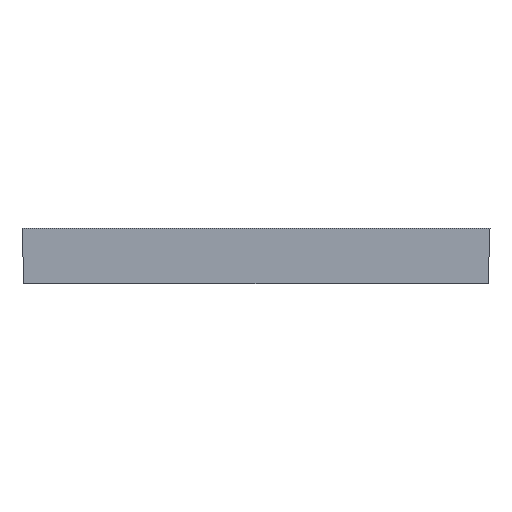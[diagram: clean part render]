
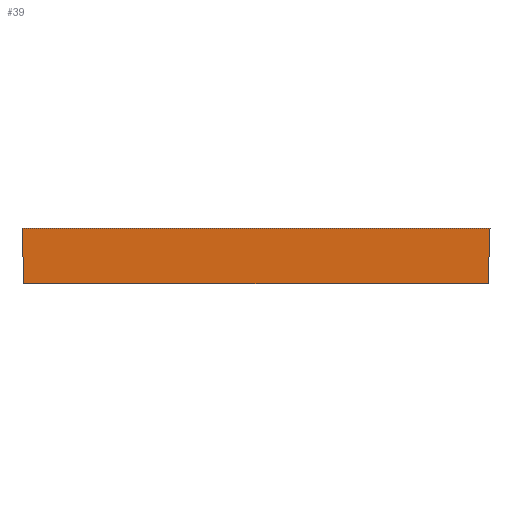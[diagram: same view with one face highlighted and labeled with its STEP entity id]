
A CAD part, front view. The second image highlights one B-rep face of the part: STEP entity #39.
In plain terms, the highlighted free-form (B-spline) face has degree [1, 1] with [2, 2] control points.
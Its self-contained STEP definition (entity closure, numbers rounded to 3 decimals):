
#39 = ADVANCED_FACE('',(#40),#54,.F.);
#40 = FACE_BOUND('',#41,.F.);
#41 = EDGE_LOOP('',(#42,#76,#103,#131));
#42 = ORIENTED_EDGE('',*,*,#43,.T.);
#43 = EDGE_CURVE('',#44,#46,#48,.T.);
#44 = VERTEX_POINT('',#45);
#45 = CARTESIAN_POINT('',(319.4,194.1,13.8));
#46 = VERTEX_POINT('',#47);
#47 = CARTESIAN_POINT('',(223.9,194.1,13.8));
#48 = SURFACE_CURVE('',#49,(#53,#64),.PCURVE_S1.);
#49 = LINE('',#50,#51);
#50 = CARTESIAN_POINT('',(319.4,194.1,13.8));
#51 = VECTOR('',#52,1.);
#52 = DIRECTION('',(-1.,0.,0.));
#53 = PCURVE('',#54,#59);
#54 = B_SPLINE_SURFACE_WITH_KNOTS('',1,1,(
    (#55,#56)
    ,(#57,#58)),.UNSPECIFIED.,.F.,.F.,.F.,(2,2),(2,2),(-0.402,
    95.902),(0.,1.),.PIECEWISE_BEZIER_KNOTS.);
#55 = CARTESIAN_POINT('',(319.4,194.1,13.8));
#56 = CARTESIAN_POINT('',(319.802,193.698,25.3));
#57 = CARTESIAN_POINT('',(223.9,194.1,13.8));
#58 = CARTESIAN_POINT('',(223.498,193.698,25.3));
#59 = DEFINITIONAL_REPRESENTATION('',(#60),#63);
#60 = B_SPLINE_CURVE_WITH_KNOTS('',1,(#61,#62),.UNSPECIFIED.,.F.,.F.,(2,
    2),(0.,95.5),.PIECEWISE_BEZIER_KNOTS.);
#61 = CARTESIAN_POINT('',(-0.402,0.));
#62 = CARTESIAN_POINT('',(95.902,0.));
#63 = ( GEOMETRIC_REPRESENTATION_CONTEXT(2) 
PARAMETRIC_REPRESENTATION_CONTEXT() REPRESENTATION_CONTEXT('2D SPACE',''
  ) );
#64 = PCURVE('',#65,#70);
#65 = PLANE('',#66);
#66 = AXIS2_PLACEMENT_3D('',#67,#68,#69);
#67 = CARTESIAN_POINT('',(319.4,194.1,13.8));
#68 = DIRECTION('',(0.,0.,1.));
#69 = DIRECTION('',(-0.977,0.213,0.));
#70 = DEFINITIONAL_REPRESENTATION('',(#71),#75);
#71 = LINE('',#72,#73);
#72 = CARTESIAN_POINT('',(0.,0.));
#73 = VECTOR('',#74,1.);
#74 = DIRECTION('',(0.977,0.213));
#75 = ( GEOMETRIC_REPRESENTATION_CONTEXT(2) 
PARAMETRIC_REPRESENTATION_CONTEXT() REPRESENTATION_CONTEXT('2D SPACE',''
  ) );
#76 = ORIENTED_EDGE('',*,*,#77,.T.);
#77 = EDGE_CURVE('',#46,#78,#80,.T.);
#78 = VERTEX_POINT('',#79);
#79 = CARTESIAN_POINT('',(223.498,193.698,25.3));
#80 = SURFACE_CURVE('',#81,(#84,#91),.PCURVE_S1.);
#81 = B_SPLINE_CURVE_WITH_KNOTS('',1,(#82,#83),.UNSPECIFIED.,.F.,.F.,(2,
    2),(0.,1.),.PIECEWISE_BEZIER_KNOTS.);
#82 = CARTESIAN_POINT('',(223.9,194.1,13.8));
#83 = CARTESIAN_POINT('',(223.498,193.698,25.3));
#84 = PCURVE('',#54,#85);
#85 = DEFINITIONAL_REPRESENTATION('',(#86),#90);
#86 = LINE('',#87,#88);
#87 = CARTESIAN_POINT('',(95.902,0.));
#88 = VECTOR('',#89,1.);
#89 = DIRECTION('',(0.,1.));
#90 = ( GEOMETRIC_REPRESENTATION_CONTEXT(2) 
PARAMETRIC_REPRESENTATION_CONTEXT() REPRESENTATION_CONTEXT('2D SPACE',''
  ) );
#91 = PCURVE('',#92,#97);
#92 = B_SPLINE_SURFACE_WITH_KNOTS('',1,1,(
    (#93,#94)
    ,(#95,#96)),.UNSPECIFIED.,.F.,.F.,.F.,(2,2),(2,2),(-0.402,
    21.202),(0.,1.),.PIECEWISE_BEZIER_KNOTS.);
#93 = CARTESIAN_POINT('',(223.9,194.1,13.8));
#94 = CARTESIAN_POINT('',(223.498,193.698,25.3));
#95 = CARTESIAN_POINT('',(223.9,214.9,13.8));
#96 = CARTESIAN_POINT('',(223.498,215.302,25.3));
#97 = DEFINITIONAL_REPRESENTATION('',(#98),#102);
#98 = LINE('',#99,#100);
#99 = CARTESIAN_POINT('',(-0.402,0.));
#100 = VECTOR('',#101,1.);
#101 = DIRECTION('',(0.,1.));
#102 = ( GEOMETRIC_REPRESENTATION_CONTEXT(2) 
PARAMETRIC_REPRESENTATION_CONTEXT() REPRESENTATION_CONTEXT('2D SPACE',''
  ) );
#103 = ORIENTED_EDGE('',*,*,#104,.F.);
#104 = EDGE_CURVE('',#105,#78,#107,.T.);
#105 = VERTEX_POINT('',#106);
#106 = CARTESIAN_POINT('',(319.802,193.698,25.3));
#107 = SURFACE_CURVE('',#108,(#112,#119),.PCURVE_S1.);
#108 = LINE('',#109,#110);
#109 = CARTESIAN_POINT('',(319.4,193.698,25.3));
#110 = VECTOR('',#111,1.);
#111 = DIRECTION('',(-1.,0.,0.));
#112 = PCURVE('',#54,#113);
#113 = DEFINITIONAL_REPRESENTATION('',(#114),#118);
#114 = LINE('',#115,#116);
#115 = CARTESIAN_POINT('',(0.,1.));
#116 = VECTOR('',#117,1.);
#117 = DIRECTION('',(1.,0.));
#118 = ( GEOMETRIC_REPRESENTATION_CONTEXT(2) 
PARAMETRIC_REPRESENTATION_CONTEXT() REPRESENTATION_CONTEXT('2D SPACE',''
  ) );
#119 = PCURVE('',#120,#125);
#120 = PLANE('',#121);
#121 = AXIS2_PLACEMENT_3D('',#122,#123,#124);
#122 = CARTESIAN_POINT('',(319.802,193.698,25.3));
#123 = DIRECTION('',(0.,0.,1.));
#124 = DIRECTION('',(-0.976,0.219,0.));
#125 = DEFINITIONAL_REPRESENTATION('',(#126),#130);
#126 = LINE('',#127,#128);
#127 = CARTESIAN_POINT('',(0.392,0.088));
#128 = VECTOR('',#129,1.);
#129 = DIRECTION('',(0.976,0.219));
#130 = ( GEOMETRIC_REPRESENTATION_CONTEXT(2) 
PARAMETRIC_REPRESENTATION_CONTEXT() REPRESENTATION_CONTEXT('2D SPACE',''
  ) );
#131 = ORIENTED_EDGE('',*,*,#132,.F.);
#132 = EDGE_CURVE('',#44,#105,#133,.T.);
#133 = SURFACE_CURVE('',#134,(#137,#144),.PCURVE_S1.);
#134 = B_SPLINE_CURVE_WITH_KNOTS('',1,(#135,#136),.UNSPECIFIED.,.F.,.F.,
  (2,2),(0.,1.),.PIECEWISE_BEZIER_KNOTS.);
#135 = CARTESIAN_POINT('',(319.4,194.1,13.8));
#136 = CARTESIAN_POINT('',(319.802,193.698,25.3));
#137 = PCURVE('',#54,#138);
#138 = DEFINITIONAL_REPRESENTATION('',(#139),#143);
#139 = LINE('',#140,#141);
#140 = CARTESIAN_POINT('',(-0.402,0.));
#141 = VECTOR('',#142,1.);
#142 = DIRECTION('',(0.,1.));
#143 = ( GEOMETRIC_REPRESENTATION_CONTEXT(2) 
PARAMETRIC_REPRESENTATION_CONTEXT() REPRESENTATION_CONTEXT('2D SPACE',''
  ) );
#144 = PCURVE('',#145,#150);
#145 = B_SPLINE_SURFACE_WITH_KNOTS('',1,1,(
    (#146,#147)
    ,(#148,#149
    )),.UNSPECIFIED.,.F.,.F.,.F.,(2,2),(2,2),(-0.402,
    21.202),(0.,1.),.PIECEWISE_BEZIER_KNOTS.);
#146 = CARTESIAN_POINT('',(319.4,214.9,13.8));
#147 = CARTESIAN_POINT('',(319.802,215.302,25.3));
#148 = CARTESIAN_POINT('',(319.4,194.1,13.8));
#149 = CARTESIAN_POINT('',(319.802,193.698,25.3));
#150 = DEFINITIONAL_REPRESENTATION('',(#151),#155);
#151 = LINE('',#152,#153);
#152 = CARTESIAN_POINT('',(21.202,0.));
#153 = VECTOR('',#154,1.);
#154 = DIRECTION('',(0.,1.));
#155 = ( GEOMETRIC_REPRESENTATION_CONTEXT(2) 
PARAMETRIC_REPRESENTATION_CONTEXT() REPRESENTATION_CONTEXT('2D SPACE',''
  ) );
